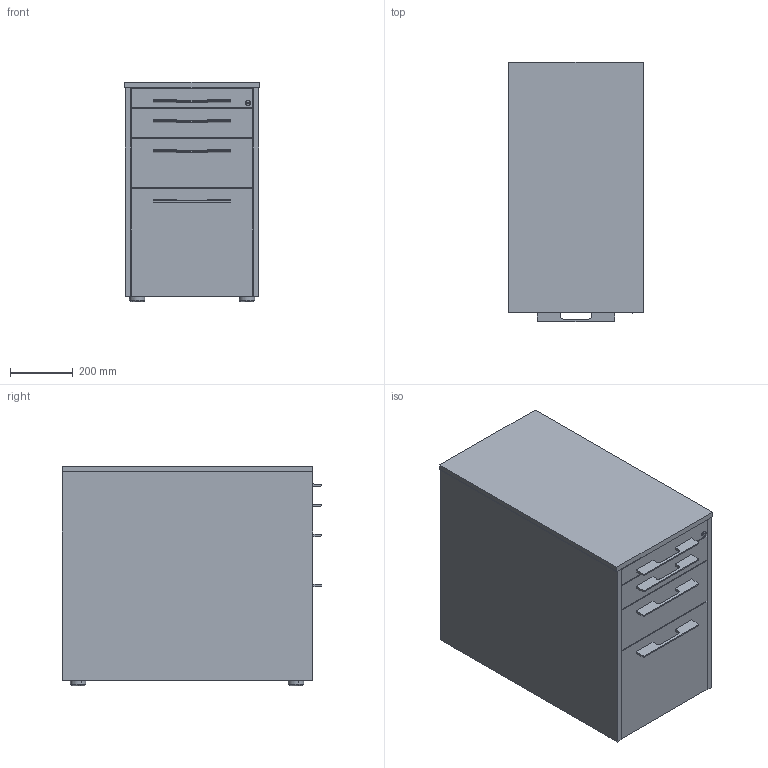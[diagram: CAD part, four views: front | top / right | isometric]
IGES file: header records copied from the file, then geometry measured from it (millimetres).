
Start section: SolidWorks IGES file using analytic representation for surfaces
Global section: file name: C:\Documents and Settings\mbiesiadecki\Moje dokumenty\MEBLE\SYSTEMY BIUROWE\6 VANCOUVER\VANCOUVER - Piktogramy\Vri-pikt-NT\Vr-KT12-t01.IGS; native system: SolidWorks 2011; preprocessor: SolidWorks 2011; author: mbiesiadecki; date: 110926.061439; units: millimetre
Bounding box: 430 x 830.1 x 702 mm (x, y, z)
Volume: 39800021.6 mm3; surface area: 4614204.8 mm2
Topology: 3 solids, 5 shells, 148 faces, 376 edges, 245 vertices
Faces by surface type: plane 99, revolution 49
